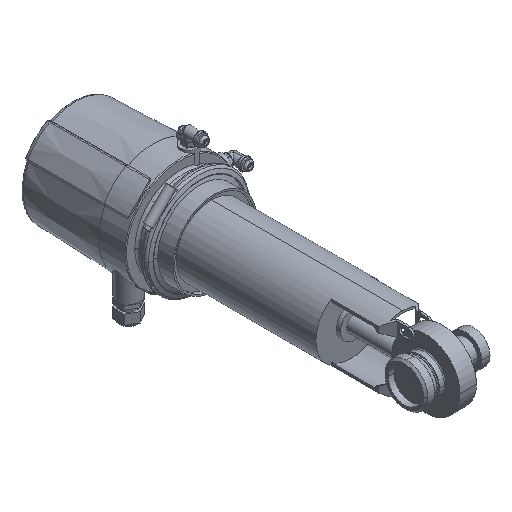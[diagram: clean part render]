
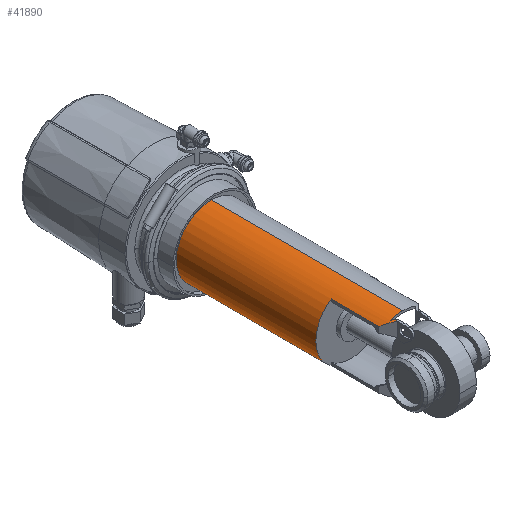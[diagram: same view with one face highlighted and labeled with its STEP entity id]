
A CAD part, isometric view. The second image highlights one B-rep face of the part: STEP entity #41890.
In plain terms, the highlighted cylindrical face has radius 42.5 mm (diameter 85 mm), a partial arc.
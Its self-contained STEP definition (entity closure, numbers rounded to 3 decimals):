
#16490=CARTESIAN_POINT('',(-105.082,-88.656,-42.5));
#16500=DIRECTION('',(0.,1.,0.));
#16510=VECTOR('',#16500,1.);
#16520=LINE('',#16490,#16510);
#16530=CARTESIAN_POINT('',(-105.082,-258.656,-42.5));
#16540=VERTEX_POINT('',#16530);
#16550=CARTESIAN_POINT('',(-105.082,-25.256,-42.5));
#16560=VERTEX_POINT('',#16550);
#16570=EDGE_CURVE('',#16540,#16560,#16520,.T.);
#16590=CARTESIAN_POINT('',(-105.082,-25.256,0.));
#16600=DIRECTION('',(0.,1.,0.));
#16610=DIRECTION('',(0.,0.,-1.));
#16620=AXIS2_PLACEMENT_3D('',#16590,#16600,#16610);
#16630=CIRCLE('',#16620,42.5);
#17020=CARTESIAN_POINT('',(-105.082,-88.656,0.));
#17030=DIRECTION('',(0.,1.,0.));
#17040=DIRECTION('',(0.,0.,1.));
#17050=AXIS2_PLACEMENT_3D('',#17020,#17030,#17040);
#17060=CIRCLE('',#17050,42.5);
#17460=CARTESIAN_POINT('',(-105.082,-25.256,0.));
#17470=DIRECTION('',(0.,1.,0.));
#17480=DIRECTION('',(0.,0.,1.));
#17490=AXIS2_PLACEMENT_3D('',#17460,#17470,#17480);
#17500=CIRCLE('',#17490,42.5);
#17510=CARTESIAN_POINT('',(-105.082,-25.256,42.5));
#17520=VERTEX_POINT('',#17510);
#17550=CARTESIAN_POINT('',(-105.082,-88.656,42.5));
#17560=DIRECTION('',(0.,1.,0.));
#17570=VECTOR('',#17560,1.);
#17580=LINE('',#17550,#17570);
#17590=CARTESIAN_POINT('',(-105.082,-258.656,42.5));
#17600=VERTEX_POINT('',#17590);
#17610=EDGE_CURVE('',#17600,#17520,#17580,.T.);
#17630=CARTESIAN_POINT('',(-105.082,-258.656,0.));
#17640=DIRECTION('',(0.,1.,0.));
#17650=DIRECTION('',(0.,0.,-1.));
#17660=AXIS2_PLACEMENT_3D('',#17630,#17640,#17650);
#17670=CIRCLE('',#17660,42.5);
#17780=EDGE_CURVE('',#17600,#16540,#17670,.T.);
#17950=CARTESIAN_POINT('',(-81.082,-30.663,
35.075));
#17960=VERTEX_POINT('',#17950);
#17990=CARTESIAN_POINT('',(-105.082,-6.663,0.));
#18000=DIRECTION('',(0.707,0.707,0.));
#18010=DIRECTION('',(-0.707,0.707,0.));
#18020=AXIS2_PLACEMENT_3D('',#17990,#18000,#18010);
#18030=ELLIPSE('',#18020,60.104,42.5);
#18040=CARTESIAN_POINT('',(-92.582,-19.163,
40.62));
#18050=VERTEX_POINT('',#18040);
#18060=EDGE_CURVE('',#18050,#17960,#18030,.T.);
#18340=CARTESIAN_POINT('',(-92.582,-19.163,
-40.62));
#18350=VERTEX_POINT('',#18340);
#18400=CARTESIAN_POINT('',(-105.082,-6.663,0.));
#18410=DIRECTION('',(-0.707,-0.707,0.));
#18420=DIRECTION('',(-0.707,0.707,0.));
#18430=AXIS2_PLACEMENT_3D('',#18400,#18410,#18420);
#18440=ELLIPSE('',#18430,60.104,42.5);
#18450=CARTESIAN_POINT('',(-81.082,-30.663,
-35.075));
#18460=VERTEX_POINT('',#18450);
#18470=EDGE_CURVE('',#18350,#18460,#18440,.T.);
#20860=CARTESIAN_POINT('',(-92.582,-285.518,
40.62));
#20870=DIRECTION('',(0.,1.,0.));
#20880=VECTOR('',#20870,1.);
#20890=LINE('',#20860,#20880);
#21660=CARTESIAN_POINT('',(-92.582,-22.699,
40.62));
#21670=VERTEX_POINT('',#21660);
#21700=CARTESIAN_POINT('',(-105.082,-10.199,0.));
#21710=DIRECTION('',(-0.707,-0.707,0.));
#21720=DIRECTION('',(0.707,-0.707,0.));
#21730=AXIS2_PLACEMENT_3D('',#21700,#21710,#21720);
#21740=ELLIPSE('',#21730,60.104,42.5);
#21750=CARTESIAN_POINT('',(-90.025,-25.256,
39.743));
#21760=VERTEX_POINT('',#21750);
#21770=EDGE_CURVE('',#21760,#21670,#21740,.T.);
#22500=EDGE_CURVE('',#21670,#18050,#20890,.T.);
#24090=CARTESIAN_POINT('',(-92.582,-12.708,
-40.62));
#24100=VERTEX_POINT('',#24090);
#24130=CARTESIAN_POINT('',(-92.582,-285.518,
-40.62));
#24140=DIRECTION('',(0.,1.,0.));
#24150=VECTOR('',#24140,1.);
#24160=LINE('',#24130,#24150);
#24170=EDGE_CURVE('',#18350,#24100,#24160,.T.);
#25220=CARTESIAN_POINT('',(-94.435,-17.311,
-41.145));
#25230=VERTEX_POINT('',#25220);
#25300=CARTESIAN_POINT('',(-95.082,-16.663,
-41.307));
#25310=VERTEX_POINT('',#25300);
#25340=CARTESIAN_POINT('',(-105.082,-6.663,0.));
#25350=DIRECTION('',(0.707,0.707,0.));
#25360=DIRECTION('',(0.707,-0.707,0.));
#25370=AXIS2_PLACEMENT_3D('',#25340,#25350,#25360);
#25380=ELLIPSE('',#25370,60.104,42.5);
#25390=EDGE_CURVE('',#25230,#25310,#25380,.T.);
#25490=CARTESIAN_POINT('',(-105.082,343.811,0.));
#25500=DIRECTION('',(0.,0.113,-0.994));
#25510=DIRECTION('',(0.,-0.994,-0.113));
#25520=AXIS2_PLACEMENT_3D('',#25490,#25500,#25510);
#25530=ELLIPSE('',#25520,375.431,42.5);
#25540=EDGE_CURVE('',#24100,#25230,#25530,.T.);
#26590=CARTESIAN_POINT('',(-95.082,-20.199,
-41.307));
#26600=VERTEX_POINT('',#26590);
#26630=CARTESIAN_POINT('',(-95.082,-285.518,
-41.307));
#26640=DIRECTION('',(0.,1.,0.));
#26650=VECTOR('',#26640,1.);
#26660=LINE('',#26630,#26650);
#26670=EDGE_CURVE('',#26600,#25310,#26660,.T.);
#27770=CARTESIAN_POINT('',(-90.025,-25.256,
-39.743));
#27780=VERTEX_POINT('',#27770);
#27810=CARTESIAN_POINT('',(-105.082,-10.199,0.));
#27820=DIRECTION('',(-0.707,-0.707,0.));
#27830=DIRECTION('',(-0.707,0.707,0.));
#27840=AXIS2_PLACEMENT_3D('',#27810,#27820,#27830);
#27850=ELLIPSE('',#27840,60.104,42.5);
#27860=EDGE_CURVE('',#26600,#27780,#27850,.T.);
#27990=CARTESIAN_POINT('',(-81.082,-285.518,
-35.075));
#28000=DIRECTION('',(0.,1.,0.));
#28010=VECTOR('',#28000,1.);
#28020=LINE('',#27990,#28010);
#28030=CARTESIAN_POINT('',(-81.082,-88.656,
-35.075));
#28040=VERTEX_POINT('',#28030);
#28050=EDGE_CURVE('',#28040,#18460,#28020,.T.);
#28680=CARTESIAN_POINT('',(-81.082,-88.656,
35.075));
#28690=VERTEX_POINT('',#28680);
#28700=EDGE_CURVE('',#28690,#28040,#17060,.T.);
#35260=EDGE_CURVE('',#27780,#16560,#16630,.T.);
#37370=EDGE_CURVE('',#17520,#21760,#17500,.T.);
#37700=CARTESIAN_POINT('',(-81.082,-285.518,
35.075));
#37710=DIRECTION('',(0.,1.,0.));
#37720=VECTOR('',#37710,1.);
#37730=LINE('',#37700,#37720);
#37740=EDGE_CURVE('',#28690,#17960,#37730,.T.);
#41650=CARTESIAN_POINT('',(-105.082,-88.656,0.));
#41660=DIRECTION('',(0.,1.,0.));
#41670=DIRECTION('',(0.,0.,-1.));
#41680=AXIS2_PLACEMENT_3D('',#41650,#41660,#41670);
#41690=CYLINDRICAL_SURFACE('',#41680,42.5);
#41700=ORIENTED_EDGE('',*,*,#21770,.F.);
#41710=ORIENTED_EDGE('',*,*,#22500,.F.);
#41720=ORIENTED_EDGE('',*,*,#18060,.F.);
#41730=ORIENTED_EDGE('',*,*,#37740,.T.);
#41740=ORIENTED_EDGE('',*,*,#28700,.F.);
#41750=ORIENTED_EDGE('',*,*,#28050,.F.);
#41760=ORIENTED_EDGE('',*,*,#18470,.T.);
#41770=ORIENTED_EDGE('',*,*,#24170,.F.);
#41780=ORIENTED_EDGE('',*,*,#25540,.F.);
#41790=ORIENTED_EDGE('',*,*,#25390,.F.);
#41800=ORIENTED_EDGE('',*,*,#26670,.T.);
#41810=ORIENTED_EDGE('',*,*,#27860,.F.);
#41820=ORIENTED_EDGE('',*,*,#35260,.F.);
#41830=ORIENTED_EDGE('',*,*,#16570,.T.);
#41840=ORIENTED_EDGE('',*,*,#17780,.T.);
#41850=ORIENTED_EDGE('',*,*,#17610,.F.);
#41860=ORIENTED_EDGE('',*,*,#37370,.F.);
#41870=EDGE_LOOP('',(#41860,#41850,#41840,#41830,#41820,#41810,#41800,
#41790,#41780,#41770,#41760,#41750,#41740,#41730,#41720,#41710,#41700));
#41880=FACE_OUTER_BOUND('',#41870,.T.);
#41890=ADVANCED_FACE('',(#41880),#41690,.T.);
